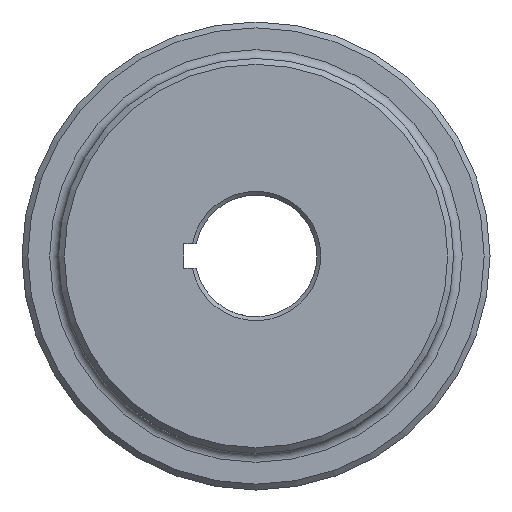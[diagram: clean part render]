
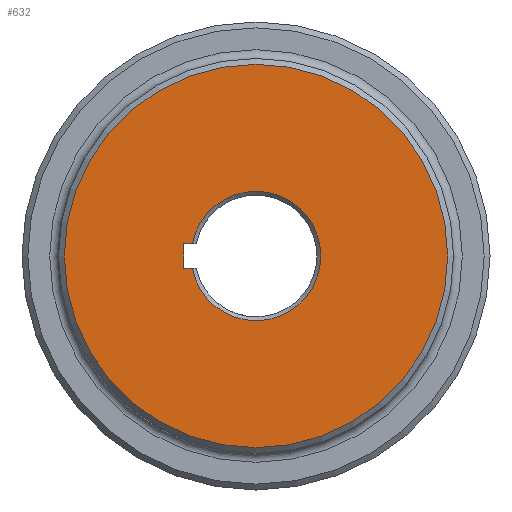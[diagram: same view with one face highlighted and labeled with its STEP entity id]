
A CAD part, left-side view. The second image highlights one B-rep face of the part: STEP entity #632.
In plain terms, the highlighted planar face has unit normal (-1, 0, 0).
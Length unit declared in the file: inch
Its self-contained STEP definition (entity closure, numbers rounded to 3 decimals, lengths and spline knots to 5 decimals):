
#137 = VERTEX_POINT ( 'NONE', #355 ) ;
#138 = AXIS2_PLACEMENT_3D ( 'NONE', #1941, #262, #2564 ) ;
#227 = DIRECTION ( 'NONE',  ( 0., 0., -1. ) ) ;
#251 = CARTESIAN_POINT ( 'NONE',  ( 0., 0.6534, -0.125 ) ) ;
#262 = DIRECTION ( 'NONE',  ( -1., 0., 0. ) ) ;
#274 = VECTOR ( 'NONE', #563, 39.37008 ) ;
#279 = ORIENTED_EDGE ( 'NONE', *, *, #2455, .T. ) ;
#355 = CARTESIAN_POINT ( 'NONE',  ( 0., 0., -1.97 ) ) ;
#563 = DIRECTION ( 'NONE',  ( 0., -1., 0. ) ) ;
#579 = CARTESIAN_POINT ( 'NONE',  ( 0., 0.6534, 0.125 ) ) ;
#587 = EDGE_CURVE ( 'NONE', #1804, #2049, #1833, .T. ) ;
#632 = ADVANCED_FACE ( 'NONE', ( #1114, #1710 ), #811, .F. ) ;
#656 = DIRECTION ( 'NONE',  ( 0., 0., -1. ) ) ;
#667 = LINE ( 'NONE', #1008, #2690 ) ;
#786 = AXIS2_PLACEMENT_3D ( 'NONE', #2574, #2038, #227 ) ;
#811 = PLANE ( 'NONE',  #786 ) ;
#947 = CARTESIAN_POINT ( 'NONE',  ( 0., 0., -0.125 ) ) ;
#1008 = CARTESIAN_POINT ( 'NONE',  ( 0., 0., 0.125 ) ) ;
#1109 = ORIENTED_EDGE ( 'NONE', *, *, #1956, .F. ) ;
#1114 = FACE_OUTER_BOUND ( 'NONE', #2102, .T. ) ;
#1151 = VECTOR ( 'NONE', #2194, 39.37008 ) ;
#1326 = DIRECTION ( 'NONE',  ( 0., 1., 0. ) ) ;
#1357 = ORIENTED_EDGE ( 'NONE', *, *, #1569, .T. ) ;
#1444 = CARTESIAN_POINT ( 'NONE',  ( 0., 0., 0. ) ) ;
#1496 = CIRCLE ( 'NONE', #138, 1.97 ) ;
#1507 = CIRCLE ( 'NONE', #2176, 0.66525 ) ;
#1550 = CARTESIAN_POINT ( 'NONE',  ( 0., 0.74275, 0.125 ) ) ;
#1569 = EDGE_CURVE ( 'NONE', #2056, #2049, #1507, .T. ) ;
#1622 = CARTESIAN_POINT ( 'NONE',  ( 0., 0.74275, -0.125 ) ) ;
#1710 = FACE_BOUND ( 'NONE', #2254, .T. ) ;
#1804 = VERTEX_POINT ( 'NONE', #2726 ) ;
#1833 = LINE ( 'NONE', #947, #274 ) ;
#1849 = DIRECTION ( 'NONE',  ( 1., 0., 0. ) ) ;
#1941 = CARTESIAN_POINT ( 'NONE',  ( 0., 0., 0. ) ) ;
#1956 = EDGE_CURVE ( 'NONE', #2056, #2219, #667, .T. ) ;
#2032 = ORIENTED_EDGE ( 'NONE', *, *, #2643, .F. ) ;
#2037 = LINE ( 'NONE', #1622, #1151 ) ;
#2038 = DIRECTION ( 'NONE',  ( 1., 0., 0. ) ) ;
#2049 = VERTEX_POINT ( 'NONE', #251 ) ;
#2056 = VERTEX_POINT ( 'NONE', #579 ) ;
#2102 = EDGE_LOOP ( 'NONE', ( #279 ) ) ;
#2176 = AXIS2_PLACEMENT_3D ( 'NONE', #1444, #1849, #656 ) ;
#2194 = DIRECTION ( 'NONE',  ( 0., 0., -1. ) ) ;
#2219 = VERTEX_POINT ( 'NONE', #1550 ) ;
#2254 = EDGE_LOOP ( 'NONE', ( #1109, #1357, #2344, #2032 ) ) ;
#2344 = ORIENTED_EDGE ( 'NONE', *, *, #587, .F. ) ;
#2455 = EDGE_CURVE ( 'NONE', #137, #137, #1496, .T. ) ;
#2564 = DIRECTION ( 'NONE',  ( 0., 0., -1. ) ) ;
#2574 = CARTESIAN_POINT ( 'NONE',  ( 0., 0., 0. ) ) ;
#2643 = EDGE_CURVE ( 'NONE', #2219, #1804, #2037, .T. ) ;
#2690 = VECTOR ( 'NONE', #1326, 39.37008 ) ;
#2726 = CARTESIAN_POINT ( 'NONE',  ( 0., 0.74275, -0.125 ) ) ;
